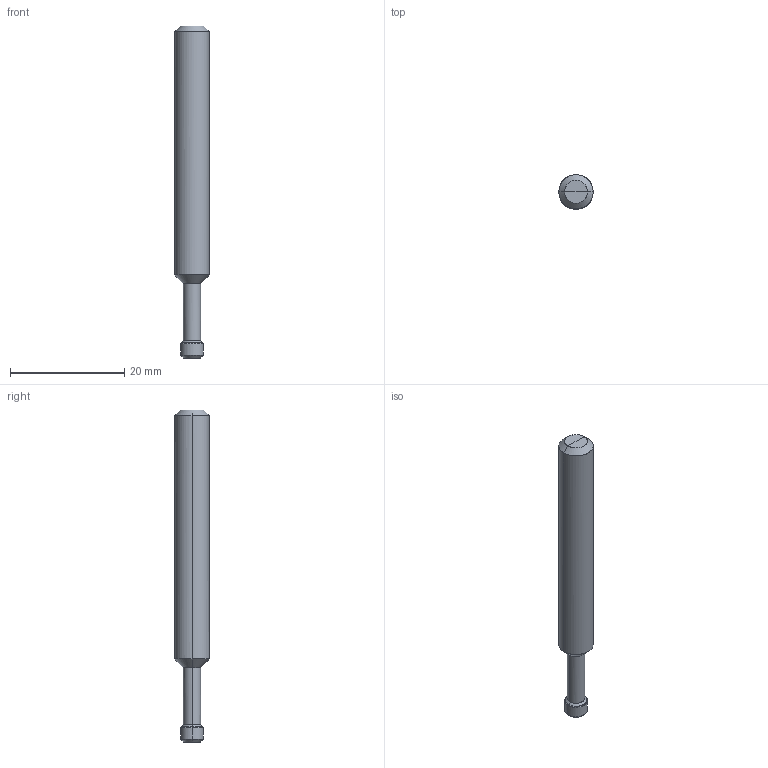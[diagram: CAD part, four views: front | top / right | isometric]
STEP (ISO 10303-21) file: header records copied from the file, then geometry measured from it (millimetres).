
FILE_DESCRIPTION(/* description */ (''),/* implementation_level */ '2;1');
FILE_NAME(/*name*/ '4111-4F-90',/*time_stamp*/'2021-5-17T8:33:7',/*author*/ ('ISBE GmbH'),/*organization*/ ('ISBE GmbH'),/*preprocessor_version*/ 'STEP IO v1.0',/*originating_system*/ '',/*authorisation*/ '');
FILE_SCHEMA (('AUTOMOTIVE_DESIGN'));
Length unit declared in the file: millimetre
Products named in the file (1): Document
Bounding box: 6 x 6 x 58 mm (x, y, z)
Surface area: 1031.4 mm2 (no closed solid volume)
Topology: 0 solids, 26 shells, 26 faces, 108 edges, 104 vertices
Faces by surface type: bspline 26
Entity records: 891 total; most frequent: CARTESIAN_POINT 438, VERTEX_POINT 96, EDGE_CURVE 96, ORIENTED_EDGE 96, EDGE_LOOP 26, FACE_OUTER_BOUND 26, ADVANCED_FACE 26, DIRECTION 16
